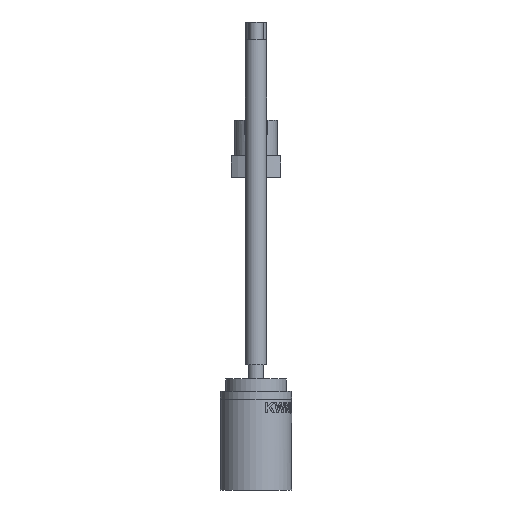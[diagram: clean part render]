
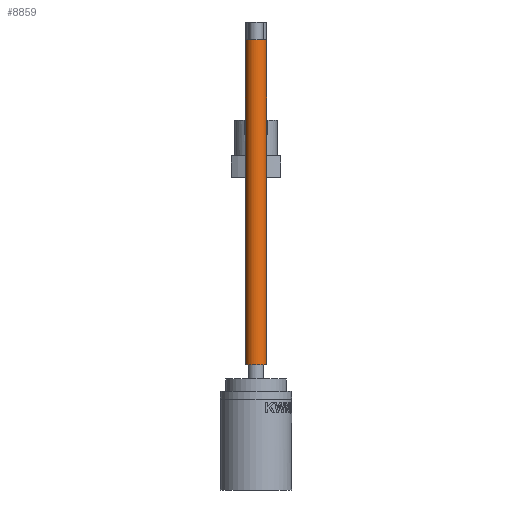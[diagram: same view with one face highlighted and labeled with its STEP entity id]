
A CAD part, left-side view. The second image highlights one B-rep face of the part: STEP entity #8859.
In plain terms, the highlighted cylindrical face has radius 1.5 mm (diameter 3 mm), a full revolution.
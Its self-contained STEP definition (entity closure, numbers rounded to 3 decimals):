
#8859=ADVANCED_FACE('',(#9605,#9606),#9072,.T.);
#9072=CYLINDRICAL_SURFACE('',#20312,1.5);
#9605=FACE_BOUND('',#10865,.T.);
#9606=FACE_BOUND('',#10866,.T.);
#10865=EDGE_LOOP('',(#14972));
#10866=EDGE_LOOP('',(#14973));
#14972=ORIENTED_EDGE('',*,*,#18650,.F.);
#14973=ORIENTED_EDGE('',*,*,#18651,.T.);
#16558=VERTEX_POINT('',#45055);
#16559=VERTEX_POINT('',#45057);
#18650=EDGE_CURVE('',#16558,#16558,#19143,.T.);
#18651=EDGE_CURVE('',#16559,#16559,#19144,.T.);
#19143=CIRCLE('',#20310,1.5);
#19144=CIRCLE('',#20311,1.5);
#20310=AXIS2_PLACEMENT_3D('',#45054,#23047,#23048);
#20311=AXIS2_PLACEMENT_3D('',#45056,#23049,#23050);
#20312=AXIS2_PLACEMENT_3D('',#45058,#23051,#23052);
#23047=DIRECTION('',(0.,0.,-1.));
#23048=DIRECTION('',(-1.,0.,0.));
#23049=DIRECTION('',(0.,0.,-1.));
#23050=DIRECTION('',(-1.,0.,0.));
#23051=DIRECTION('',(0.,0.,-1.));
#23052=DIRECTION('',(-1.,0.,0.));
#45054=CARTESIAN_POINT('',(-62.,0.,17.55));
#45055=CARTESIAN_POINT('',(-63.5,0.,17.55));
#45056=CARTESIAN_POINT('',(-62.,0.,63.05));
#45057=CARTESIAN_POINT('',(-63.5,0.,63.05));
#45058=CARTESIAN_POINT('',(-62.,0.,13.8));
